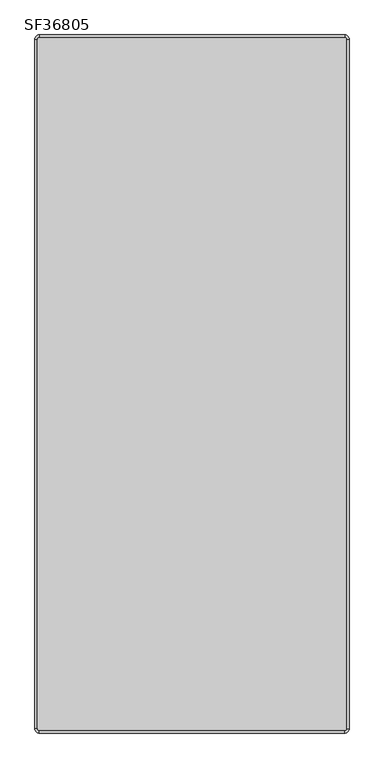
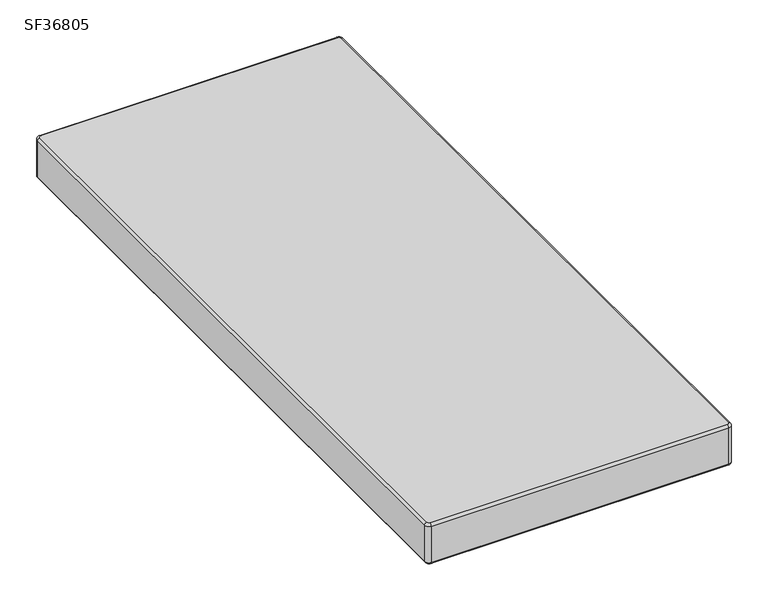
"""IFC4 building model written with IfcOpenShell, lengths in millimetres: furniture geometry, Stance_HC-Lotus-Matress : SF36805."""

from ifc_helpers import new_model, si_unit, point, frame, origin, place, context, project, spatial, circle_curve, ellipse_curve, trimmed, source, transform, mapped, element, save
from ifc_brep_helpers import plane_surface, cylinder_surface, revolved_surface, advanced_brep


def sf36805_100d38df(model_context):
    return source(origin(), model_context, "Body", "AdvancedBrep", [
        advanced_brep(
        [(12.7, 0.0, 463.55), (0.0, -12.7, 463.55), (6.35, -12.7, 469.9), (12.7, -6.35, 469.9), (12.7, 0.0, 349.25), (0.0, -12.7, 349.25), (12.7, -6.35, 342.9), (6.35, -12.7, 342.9), (901.7, -6.35, 469.9), (901.7, 0.0, 463.55), (901.7, 0.0, 349.25), (901.7, -6.35, 342.9), (908.05, -12.7, 469.9), (914.4, -12.7, 463.55), (914.4, -12.7, 349.25), (908.05, -12.7, 342.9), (908.05, -2019.3, 469.9), (914.4, -2019.3, 463.55), (914.4, -2019.3, 349.25), (908.05, -2019.3, 342.9), (901.7, -2025.65, 469.9), (901.7, -2032.0, 463.55), (901.7, -2032.0, 349.25), (901.7, -2025.65, 342.9), (12.7, -2025.65, 469.9), (12.7, -2032.0, 463.55), (12.7, -2032.0, 349.25), (12.7, -2025.65, 342.9), (6.35, -2019.3, 469.9), (0.0, -2019.3, 463.55), (0.0, -2019.3, 349.25), (6.35, -2019.3, 342.9)],
        [
            (0, 1, circle_curve(frame((12.7, -12.7, 463.55), z_axis=(0.0, 0.0, 1.0), x_axis=(-1.0, 0.0, 0.0)), 12.7)),
            (1, 2, circle_curve(frame((6.35, -12.7, 463.55), z_axis=(0.0, 1.0, 0.0), x_axis=(1.0, 0.0, 0.0)), 6.35)),
            (2, 3, circle_curve(frame((12.7, -12.7, 469.9), z_axis=(0.0, 0.0, -1.0), x_axis=(-1.0, 0.0, 0.0)), 6.35)),
            (3, 0, circle_curve(frame((12.7, -6.35, 463.55), z_axis=(-1.0, 0.0, 0.0), x_axis=(0.0, -1.0, 0.0)), 6.35)),
            (0, 4),
            (4, 5, circle_curve(frame((12.7, -12.7, 349.25), z_axis=(0.0, 0.0, 1.0), x_axis=(-1.0, 0.0, 0.0)), 12.7)),
            (5, 1),
            (4, 6, circle_curve(frame((12.7, -6.35, 349.25), z_axis=(-1.0, 0.0, 0.0), x_axis=(0.0, -1.0, 0.0)), 6.35)),
            (6, 7, circle_curve(frame((12.7, -12.7, 342.9), z_axis=(0.0, 0.0, 1.0), x_axis=(-1.0, 0.0, 0.0)), 6.35)),
            (7, 5, circle_curve(frame((6.35, -12.7, 349.25), z_axis=(0.0, 1.0, 0.0), x_axis=(1.0, 0.0, 0.0)), 6.35)),
            (3, 8),
            (8, 9, circle_curve(frame((901.7, -6.35, 463.55), z_axis=(-1.0, 0.0, 0.0), x_axis=(0.0, -1.0, 0.0)), 6.35)),
            (9, 0),
            (9, 10),
            (10, 4),
            (10, 11, circle_curve(frame((901.7, -6.35, 349.25), z_axis=(-1.0, 0.0, 0.0), x_axis=(0.0, -1.0, 0.0)), 6.35)),
            (11, 6),
            (8, 12, circle_curve(frame((901.7, -12.7, 469.9), z_axis=(0.0, 0.0, -1.0), x_axis=(0.0, 1.0, 0.0)), 6.35)),
            (12, 13, circle_curve(frame((908.05, -12.7, 463.55), z_axis=(0.0, 1.0, 0.0), x_axis=(-1.0, 0.0, 0.0)), 6.35)),
            (13, 9, circle_curve(frame((901.7, -12.7, 463.55), z_axis=(0.0, 0.0, 1.0), x_axis=(0.0, 1.0, 0.0)), 12.7)),
            (13, 14),
            (14, 10, circle_curve(frame((901.7, -12.7, 349.25), z_axis=(0.0, 0.0, 1.0), x_axis=(0.0, 1.0, 0.0)), 12.7)),
            (14, 15, circle_curve(frame((908.05, -12.7, 349.25), z_axis=(0.0, 1.0, 0.0), x_axis=(-1.0, 0.0, 0.0)), 6.35)),
            (15, 11, circle_curve(frame((901.7, -12.7, 342.9), z_axis=(0.0, 0.0, 1.0), x_axis=(0.0, 1.0, 0.0)), 6.35)),
            (12, 16),
            (16, 17, circle_curve(frame((908.05, -2019.3, 463.55), z_axis=(0.0, 1.0, 0.0), x_axis=(-1.0, 0.0, 0.0)), 6.35)),
            (17, 13),
            (17, 18),
            (18, 14),
            (18, 19, circle_curve(frame((908.05, -2019.3, 349.25), z_axis=(0.0, 1.0, 0.0), x_axis=(-1.0, 0.0, 0.0)), 6.35)),
            (19, 15),
            (16, 20, circle_curve(frame((901.7, -2019.3, 469.9), z_axis=(0.0, 0.0, -1.0), x_axis=(1.0, 0.0, 0.0)), 6.35)),
            (20, 21, circle_curve(frame((901.7, -2025.65, 463.55), z_axis=(1.0, 0.0, 0.0), x_axis=(0.0, 1.0, 0.0)), 6.35)),
            (21, 17, circle_curve(frame((901.7, -2019.3, 463.55), z_axis=(0.0, 0.0, 1.0), x_axis=(1.0, 0.0, 0.0)), 12.7)),
            (21, 22),
            (22, 18, circle_curve(frame((901.7, -2019.3, 349.25), z_axis=(0.0, 0.0, 1.0), x_axis=(1.0, 0.0, 0.0)), 12.7)),
            (22, 23, circle_curve(frame((901.7, -2025.65, 349.25), z_axis=(1.0, 0.0, 0.0), x_axis=(0.0, 1.0, 0.0)), 6.35)),
            (23, 19, circle_curve(frame((901.7, -2019.3, 342.9), z_axis=(0.0, 0.0, 1.0), x_axis=(1.0, 0.0, 0.0)), 6.35)),
            (20, 24),
            (24, 25, circle_curve(frame((12.7, -2025.65, 463.55), z_axis=(1.0, 0.0, 0.0), x_axis=(0.0, 1.0, 0.0)), 6.35)),
            (25, 21),
            (25, 26),
            (26, 22),
            (26, 27, circle_curve(frame((12.7, -2025.65, 349.25), z_axis=(1.0, 0.0, 0.0), x_axis=(0.0, 1.0, 0.0)), 6.35)),
            (27, 23),
            (24, 28, circle_curve(frame((12.7, -2019.3, 469.9), z_axis=(0.0, 0.0, -1.0), x_axis=(0.0, -1.0, 0.0)), 6.35)),
            (28, 29, circle_curve(frame((6.35, -2019.3, 463.55), z_axis=(0.0, -1.0, 0.0), x_axis=(1.0, 0.0, 0.0)), 6.35)),
            (29, 25, circle_curve(frame((12.7, -2019.3, 463.55), z_axis=(0.0, 0.0, 1.0), x_axis=(0.0, -1.0, 0.0)), 12.7)),
            (29, 30),
            (30, 26, circle_curve(frame((12.7, -2019.3, 349.25), z_axis=(0.0, 0.0, 1.0), x_axis=(0.0, -1.0, 0.0)), 12.7)),
            (30, 31, circle_curve(frame((6.35, -2019.3, 349.25), z_axis=(0.0, -1.0, 0.0), x_axis=(1.0, 0.0, 0.0)), 6.35)),
            (31, 27, circle_curve(frame((12.7, -2019.3, 342.9), z_axis=(0.0, 0.0, 1.0), x_axis=(0.0, -1.0, 0.0)), 6.35)),
            (2, 28),
            (1, 29),
            (5, 30),
            (7, 31),
        ],
        [
            revolved_surface(trimmed(ellipse_curve(frame((6.35, -12.7, 463.55), z_axis=(0.0, -1.0, 0.0), x_axis=(1.0, 0.0, 0.0)), 6.35, 6.35), [point((6.35, -12.7, 469.9))], [point((0.0, -12.7, 463.55))], True, "CARTESIAN"), (12.7, -12.7, 0.0), (0.0, 0.0, -1.0)),
            cylinder_surface(frame((12.7, -12.7, 0.0), z_axis=(0.0, 0.0, -1.0), x_axis=(-1.0, 0.0, 0.0)), 12.7),
            revolved_surface(trimmed(ellipse_curve(frame((6.35, -12.7, 349.25), z_axis=(0.0, -1.0, 0.0), x_axis=(1.0, 0.0, 0.0)), 6.35, 6.35), [point((0.0, -12.7, 349.25))], [point((6.35, -12.7, 342.9))], True, "CARTESIAN"), (12.7, -12.7, 0.0), (0.0, 0.0, -1.0)),
            cylinder_surface(frame((12.7, -6.35, 463.55), z_axis=(-1.0, 0.0, 0.0), x_axis=(0.0, -1.0, 0.0)), 6.35),
            plane_surface(frame((12.7, 0.0, 463.55), z_axis=(0.0, 1.0, 0.0), x_axis=(1.0, 0.0, 0.0))),
            cylinder_surface(frame((12.7, -6.35, 349.25), z_axis=(-1.0, 0.0, 0.0), x_axis=(0.0, -1.0, 0.0)), 6.35),
            revolved_surface(trimmed(ellipse_curve(frame((901.7, -6.35, 463.55), z_axis=(-1.0, 0.0, 0.0), x_axis=(0.0, -1.0, 0.0)), 6.35, 6.35), [point((901.7, -6.35, 469.9))], [point((901.7, 0.0, 463.55))], True, "CARTESIAN"), (901.7, -12.7, 0.0), (0.0, 0.0, -1.0)),
            cylinder_surface(frame((901.7, -12.7, 0.0), z_axis=(0.0, 0.0, -1.0), x_axis=(0.0, 1.0, 0.0)), 12.7),
            revolved_surface(trimmed(ellipse_curve(frame((901.7, -6.35, 349.25), z_axis=(-1.0, 0.0, 0.0), x_axis=(0.0, -1.0, 0.0)), 6.35, 6.35), [point((901.7, 0.0, 349.25))], [point((901.7, -6.35, 342.9))], True, "CARTESIAN"), (901.7, -12.7, 0.0), (0.0, 0.0, -1.0)),
            cylinder_surface(frame((908.05, -12.7, 463.55), z_axis=(0.0, 1.0, 0.0), x_axis=(-1.0, 0.0, 0.0)), 6.35),
            plane_surface(frame((914.4, -12.7, 463.55), z_axis=(1.0, 0.0, 0.0), x_axis=(0.0, -1.0, 0.0))),
            cylinder_surface(frame((908.05, -12.7, 349.25), z_axis=(0.0, 1.0, 0.0), x_axis=(-1.0, 0.0, 0.0)), 6.35),
            revolved_surface(trimmed(ellipse_curve(frame((908.05, -2019.3, 463.55), z_axis=(0.0, 1.0, 0.0), x_axis=(-1.0, 0.0, 0.0)), 6.35, 6.35), [point((908.05, -2019.3, 469.9))], [point((914.4, -2019.3, 463.55))], True, "CARTESIAN"), (901.7, -2019.3, 0.0), (0.0, 0.0, -1.0)),
            cylinder_surface(frame((901.7, -2019.3, 0.0), z_axis=(0.0, 0.0, -1.0), x_axis=(1.0, 0.0, 0.0)), 12.7),
            revolved_surface(trimmed(ellipse_curve(frame((908.05, -2019.3, 349.25), z_axis=(0.0, 1.0, 0.0), x_axis=(-1.0, 0.0, 0.0)), 6.35, 6.35), [point((914.4, -2019.3, 349.25))], [point((908.05, -2019.3, 342.9))], True, "CARTESIAN"), (901.7, -2019.3, 0.0), (0.0, 0.0, -1.0)),
            cylinder_surface(frame((901.7, -2025.65, 463.55), z_axis=(1.0, 0.0, 0.0), x_axis=(0.0, 1.0, 0.0)), 6.35),
            plane_surface(frame((901.7, -2032.0, 463.55), z_axis=(0.0, -1.0, 0.0), x_axis=(-1.0, 0.0, 0.0))),
            cylinder_surface(frame((901.7, -2025.65, 349.25), z_axis=(1.0, 0.0, 0.0), x_axis=(0.0, 1.0, 0.0)), 6.35),
            revolved_surface(trimmed(ellipse_curve(frame((12.7, -2025.65, 463.55), z_axis=(1.0, 0.0, 0.0), x_axis=(0.0, 1.0, 0.0)), 6.35, 6.35), [point((12.7, -2025.65, 469.9))], [point((12.7, -2032.0, 463.55))], True, "CARTESIAN"), (12.7, -2019.3, 0.0), (0.0, 0.0, -1.0)),
            cylinder_surface(frame((12.7, -2019.3, 0.0), z_axis=(0.0, 0.0, -1.0), x_axis=(0.0, -1.0, 0.0)), 12.7),
            revolved_surface(trimmed(ellipse_curve(frame((12.7, -2025.65, 349.25), z_axis=(1.0, 0.0, 0.0), x_axis=(0.0, 1.0, 0.0)), 6.35, 6.35), [point((12.7, -2032.0, 349.25))], [point((12.7, -2025.65, 342.9))], True, "CARTESIAN"), (12.7, -2019.3, 0.0), (0.0, 0.0, -1.0)),
            plane_surface(frame((9.525, -2019.3, 469.9), z_axis=(0.0, 0.0, 1.0), x_axis=(0.0, 1.0, 0.0))),
            cylinder_surface(frame((6.35, -2019.3, 463.55), z_axis=(0.0, -1.0, 0.0), x_axis=(1.0, 0.0, 0.0)), 6.35),
            plane_surface(frame((0.0, -2019.3, 463.55), z_axis=(-1.0, 0.0, 0.0), x_axis=(0.0, 1.0, 0.0))),
            cylinder_surface(frame((6.35, -2019.3, 349.25), z_axis=(0.0, -1.0, 0.0), x_axis=(1.0, 0.0, 0.0)), 6.35),
            plane_surface(frame((6.35, -2019.3, 342.9), z_axis=(0.0, 0.0, -1.0), x_axis=(0.0, 1.0, 0.0))),
        ],
        [
            (0, [[1, 2, 3, 4]]),
            (1, [[-1, 5, 6, 7]]),
            (2, [[-6, 8, 9, 10]]),
            (3, [[-4, 11, 12, 13]]),
            (4, [[-5, -13, 14, 15]]),
            (5, [[-8, -15, 16, 17]]),
            (6, [[-12, 18, 19, 20]]),
            (7, [[-14, -20, 21, 22]]),
            (8, [[-16, -22, 23, 24]]),
            (9, [[-19, 25, 26, 27]]),
            (10, [[-21, -27, 28, 29]]),
            (11, [[-23, -29, 30, 31]]),
            (12, [[-26, 32, 33, 34]]),
            (13, [[-28, -34, 35, 36]]),
            (14, [[-30, -36, 37, 38]]),
            (15, [[-33, 39, 40, 41]]),
            (16, [[-35, -41, 42, 43]]),
            (17, [[-37, -43, 44, 45]]),
            (18, [[-40, 46, 47, 48]]),
            (19, [[-42, -48, 49, 50]]),
            (20, [[-44, -50, 51, 52]]),
            (21, [[-3, 53, -46, -39, -32, -25, -18, -11]]),
            (22, [[-2, 54, -47, -53]]),
            (23, [[-7, 55, -49, -54]]),
            (24, [[-10, 56, -51, -55]]),
            (25, [[-9, -17, -24, -31, -38, -45, -52, -56]]),
        ],
    ),
    ])


if __name__ == "__main__":
    model = new_model("IFC4")
    model_context = context("Model", 3, world=origin())
    ifc_project = project(units=[si_unit("LENGTHUNIT", "METRE", prefix="MILLI")], contexts=[model_context])
    site = spatial("IfcSite", under=ifc_project)
    building = spatial("IfcBuilding", under=site)
    placement = place(None, origin())
    sf36805_shape = sf36805_100d38df(model_context)
    element("IfcFurniture", 1, ObjectType="Stance_HC-Lotus-Matress : SF36805", at=placement, inside=building, context=model_context, shape_type="MappedRepresentation", body=[
        mapped(sf36805_shape, transform((0.0, 0.0, 0.0), x_axis=(1.0, 0.0, 0.0), y_axis=(0.0, 1.0, 0.0), z_axis=(0.0, 0.0, 1.0))),
    ])
    save(model, "model.ifc")
